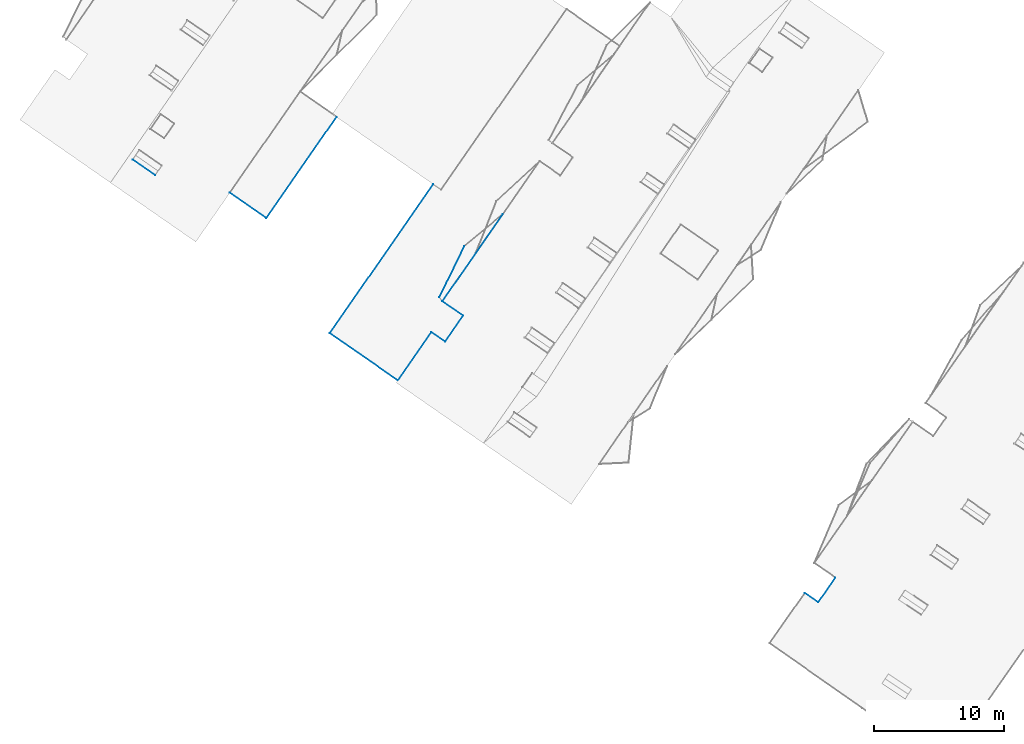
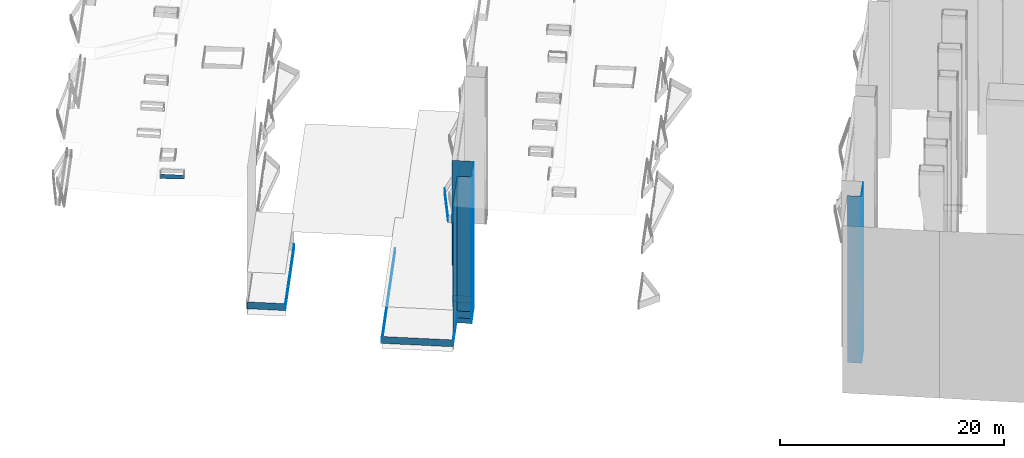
# Not in any storey, part 2 of 136: 27 walls.
"""IFC4 building model written with IfcOpenShell, lengths in metres."""

from ifc_helpers import new_model, entity, si_unit, converted_unit, origin, place, context, subcontext, project, spatial, face_set, surface_model, element, save


model = new_model("IFC4")

# Units and contexts
model_context = context("Model", 3, precision=1e-05, world=origin())
body_context = subcontext(model_context, "Body", "Model", "MODEL_VIEW")
ifc_project = project(units=[converted_unit("PLANEANGLEUNIT", "DEGREE", entity("IfcRatioMeasure", 0.0174532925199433), si_unit("PLANEANGLEUNIT", "RADIAN"), dimensions=[0, 0, 0, 0, 0, 0, 0]), si_unit("AREAUNIT", "SQUARE_METRE"), si_unit("LENGTHUNIT", "METRE")], contexts=[model_context])

# Site, building
site_placement = place(None, origin())
site = spatial("IfcSite", under=ifc_project, at=site_placement, Name="_site")
building_1_placement = place(site_placement, origin())
building_1 = spatial("IfcBuilding", under=site, at=building_1_placement, Name="_building")

# Walls
wall_1_placement = place(building_1_placement, origin())
element("IfcWall", 1, at=wall_1_placement, inside=building_1, Name="Wall", PredefinedType="NOTDEFINED", context=body_context, shape_type="SurfaceModel", body=[
    surface_model("IfcFaceBasedSurfaceModel", [(-0.84, 24.2, 53.93), (0.19, 23.48, 53.93), (0.19, 23.48, 35.766), (-0.84, 24.2, 35.761)], [face_set([[[0, 1, 2, 3]]])]),
])
wall_2_placement = place(building_1_placement, origin())
element("IfcWall", 2, at=wall_2_placement, inside=building_1, Name="Wall", PredefinedType="NOTDEFINED", context=body_context, shape_type="SurfaceModel", body=[
    surface_model("IfcFaceBasedSurfaceModel", [(0.19, 23.48, 53.93), (1.5, 25.37, 53.93), (1.5, 25.37, 35.775), (0.19, 23.48, 35.766)], [face_set([[[0, 1, 2, 3]]])]),
])

# Building
building_2_placement = place(site_placement, origin())
building_2 = spatial("IfcBuilding", under=site, at=building_2_placement, Name="_building")

# Walls
wall_3_placement = place(building_2_placement, origin())
element("IfcWall", 3, at=wall_3_placement, inside=building_2, Name="Wall", PredefinedType="NOTDEFINED", context=body_context, shape_type="SurfaceModel", body=[
    surface_model("IfcFaceBasedSurfaceModel", [(-29.47, 44.19, 38.52), (-32.04, 40.49, 38.52), (-32.04, 40.49, 39.27), (-29.47, 44.19, 39.27)], [face_set([[[0, 1, 2, 3]]])]),
])
wall_4_placement = place(building_2_placement, origin())
element("IfcWall", 4, at=wall_4_placement, inside=building_2, Name="Wall", PredefinedType="NOTDEFINED", context=body_context, shape_type="SurfaceModel", body=[
    surface_model("IfcFaceBasedSurfaceModel", [(-28.41, 43.46, 38.52), (-29.47, 44.19, 38.52), (-29.47, 44.19, 39.27), (-28.41, 43.46, 39.27)], [face_set([[[0, 1, 2, 3]]])]),
])
wall_5_placement = place(building_2_placement, origin())
element("IfcWall", 5, at=wall_5_placement, inside=building_2, Name="Wall", PredefinedType="NOTDEFINED", context=body_context, shape_type="SurfaceModel", body=[
    surface_model("IfcFaceBasedSurfaceModel", [(-27.04, 45.45, 38.52), (-28.41, 43.46, 38.52), (-28.41, 43.46, 39.27), (-27.04, 45.45, 39.27)], [face_set([[[0, 1, 2, 3]]])]),
])
wall_6_placement = place(building_2_placement, origin())
element("IfcWall", 6, at=wall_6_placement, inside=building_2, Name="Wall", PredefinedType="NOTDEFINED", context=body_context, shape_type="SurfaceModel", body=[
    surface_model("IfcFaceBasedSurfaceModel", [(-37.25, 44.11, 38.52), (-29.32, 55.521, 38.52), (-29.32, 55.521, 39.27), (-37.25, 44.11, 39.27)], [face_set([[[0, 1, 2, 3]]])]),
])
wall_7_placement = place(building_2_placement, origin())
element("IfcWall", 7, at=wall_7_placement, inside=building_2, Name="Wall", PredefinedType="NOTDEFINED", context=body_context, shape_type="SurfaceModel", body=[
    surface_model("IfcFaceBasedSurfaceModel", [(-27.04, 45.45, 53.94), (-28.62, 46.55, 53.94), (-28.62, 46.55, 37.98), (-27.04, 45.45, 37.98)], [face_set([[[0, 1, 2, 3]]])]),
])
wall_8_placement = place(building_2_placement, origin())
element("IfcWall", 8, at=wall_8_placement, inside=building_2, Name="Wall", PredefinedType="NOTDEFINED", context=body_context, shape_type="SurfaceModel", body=[
    surface_model("IfcFaceBasedSurfaceModel", [(-28.41, 43.46, 53.94), (-27.04, 45.45, 53.94), (-27.04, 45.45, 37.98), (-28.41, 43.46, 37.98)], [face_set([[[0, 1, 2, 3]]])]),
])
wall_9_placement = place(building_2_placement, origin())
element("IfcWall", 9, at=wall_9_placement, inside=building_2, Name="Wall", PredefinedType="NOTDEFINED", context=body_context, shape_type="SurfaceModel", body=[
    surface_model("IfcFaceBasedSurfaceModel", [(-29.47, 44.19, 53.94), (-28.41, 43.46, 53.94), (-28.41, 43.46, 37.98), (-29.47, 44.19, 37.98)], [face_set([[[0, 1, 2, 3]]])]),
])
wall_10_placement = place(building_2_placement, origin())
element("IfcWall", 10, at=wall_10_placement, inside=building_2, Name="Wall", PredefinedType="NOTDEFINED", context=body_context, shape_type="SurfaceModel", body=[
    surface_model("IfcFaceBasedSurfaceModel", [(-32.04, 40.49, 53.94), (-29.47, 44.19, 53.94), (-29.47, 44.19, 37.98), (-32.04, 40.49, 37.98)], [face_set([[[0, 1, 2, 3]]])]),
])
wall_11_placement = place(building_2_placement, origin())
element("IfcWall", 11, at=wall_11_placement, inside=building_2, Name="Wall", PredefinedType="NOTDEFINED", context=body_context, shape_type="SurfaceModel", body=[
    surface_model("IfcFaceBasedSurfaceModel", [(-29.47, 44.19, 38.52), (-32.04, 40.49, 38.52), (-32.04, 40.49, 39.27), (-29.47, 44.19, 39.27)], [face_set([[[0, 1, 2, 3]]])]),
])
wall_12_placement = place(building_2_placement, origin())
element("IfcWall", 12, at=wall_12_placement, inside=building_2, Name="Wall", PredefinedType="NOTDEFINED", context=body_context, shape_type="SurfaceModel", body=[
    surface_model("IfcFaceBasedSurfaceModel", [(-28.62, 46.55, 38.52), (-27.04, 45.45, 38.52), (-27.04, 45.45, 39.27), (-28.62, 46.55, 39.27)], [face_set([[[0, 1, 2, 3]]])]),
])
wall_13_placement = place(building_2_placement, origin())
element("IfcWall", 13, at=wall_13_placement, inside=building_2, Name="Wall", PredefinedType="NOTDEFINED", context=body_context, shape_type="SurfaceModel", body=[
    surface_model("IfcFaceBasedSurfaceModel", [(-32.04, 40.49, 38.52), (-37.25, 44.11, 38.52), (-37.25, 44.11, 39.27), (-32.04, 40.49, 39.27)], [face_set([[[0, 1, 2, 3]]])]),
])
wall_14_placement = place(building_2_placement, origin())
element("IfcWall", 14, at=wall_14_placement, inside=building_2, Name="Wall", PredefinedType="NOTDEFINED", context=body_context, shape_type="SurfaceModel", body=[
    surface_model("IfcFaceBasedSurfaceModel", [(-37.25, 44.11, 38.52), (-29.32, 55.521, 38.52), (-29.32, 55.521, 39.27), (-37.25, 44.11, 39.27)], [face_set([[[0, 1, 2, 3]]])]),
])
wall_15_placement = place(building_2_placement, origin())
element("IfcWall", 15, at=wall_15_placement, inside=building_2, Name="Wall", PredefinedType="NOTDEFINED", context=body_context, shape_type="SurfaceModel", body=[
    surface_model("IfcFaceBasedSurfaceModel", [(-28.41, 43.46, 38.52), (-29.47, 44.19, 38.52), (-29.47, 44.19, 39.27), (-28.41, 43.46, 39.27)], [face_set([[[0, 1, 2, 3]]])]),
])
wall_16_placement = place(building_2_placement, origin())
element("IfcWall", 16, at=wall_16_placement, inside=building_2, Name="Wall", PredefinedType="NOTDEFINED", context=body_context, shape_type="SurfaceModel", body=[
    surface_model("IfcFaceBasedSurfaceModel", [(-32.04, 40.49, 38.52), (-37.25, 44.11, 38.52), (-37.25, 44.11, 39.27), (-32.04, 40.49, 39.27)], [face_set([[[0, 1, 2, 3]]])]),
])
wall_17_placement = place(building_2_placement, origin())
element("IfcWall", 17, at=wall_17_placement, inside=building_2, Name="Wall", PredefinedType="NOTDEFINED", context=body_context, shape_type="SurfaceModel", body=[
    surface_model("IfcFaceBasedSurfaceModel", [(-27.04, 45.45, 38.52), (-28.41, 43.46, 38.52), (-28.41, 43.46, 39.27), (-27.04, 45.45, 39.27)], [face_set([[[0, 1, 2, 3]]])]),
])
wall_18_placement = place(building_2_placement, origin())
element("IfcWall", 18, at=wall_18_placement, inside=building_2, Name="Wall", PredefinedType="NOTDEFINED", context=body_context, shape_type="SurfaceModel", body=[
    surface_model("IfcFaceBasedSurfaceModel", [(-28.62, 46.55, 38.52), (-27.04, 45.45, 38.52), (-27.04, 45.45, 39.27), (-28.62, 46.55, 39.27)], [face_set([[[0, 1, 2, 3]]])]),
])
wall_19_placement = place(building_2_placement, origin())
element("IfcWall", 19, at=wall_19_placement, inside=building_2, Name="Wall", PredefinedType="NOTDEFINED", context=body_context, shape_type="SurfaceModel", body=[
    surface_model("IfcFaceBasedSurfaceModel", [(-28.85, 46.86, 47.1), (-26.94, 50.78, 47.1), (-26.94, 50.78, 47.85), (-28.85, 46.86, 47.85)], [face_set([[[0, 1, 2, 3]]])]),
])
wall_20_placement = place(building_2_placement, origin())
element("IfcWall", 20, at=wall_20_placement, inside=building_2, Name="Wall", PredefinedType="NOTDEFINED", context=body_context, shape_type="SurfaceModel", body=[
    surface_model("IfcFaceBasedSurfaceModel", [(-23.99, 53.23, 47.1), (-28.62, 46.55, 47.1), (-28.62, 46.55, 47.85), (-23.99, 53.23, 47.85)], [face_set([[[0, 1, 2, 3]]])]),
])
wall_21_placement = place(building_2_placement, origin())
element("IfcWall", 21, at=wall_21_placement, inside=building_2, Name="Wall", PredefinedType="NOTDEFINED", context=body_context, shape_type="SurfaceModel", body=[
    surface_model("IfcFaceBasedSurfaceModel", [(-28.85, 46.86, 47.1), (-26.94, 50.78, 47.1), (-26.94, 50.78, 47.85), (-28.85, 46.86, 47.85)], [face_set([[[0, 1, 2, 3]]])]),
])
wall_22_placement = place(building_2_placement, origin())
element("IfcWall", 22, at=wall_22_placement, inside=building_2, Name="Wall", PredefinedType="NOTDEFINED", context=body_context, shape_type="SurfaceModel", body=[
    surface_model("IfcFaceBasedSurfaceModel", [(-23.99, 53.23, 47.1), (-28.62, 46.55, 47.1), (-28.62, 46.55, 47.85), (-23.99, 53.23, 47.85)], [face_set([[[0, 1, 2, 3]]])]),
])

# Building
building_3_placement = place(site_placement, origin())
building_3 = spatial("IfcBuilding", under=site, at=building_3_placement, Name="_building")

# Walls
wall_23_placement = place(building_3_placement, origin())
element("IfcWall", 23, at=wall_23_placement, inside=building_3, Name="Wall", PredefinedType="NOTDEFINED", context=body_context, shape_type="SurfaceModel", body=[
    surface_model("IfcFaceBasedSurfaceModel", [(-42.12, 52.94, 38.44), (-44.91, 54.88, 38.44), (-44.91, 54.88, 39.19), (-42.12, 52.94, 39.19)], [face_set([[[0, 1, 2, 3]]])]),
])
wall_24_placement = place(building_3_placement, origin())
element("IfcWall", 24, at=wall_24_placement, inside=building_3, Name="Wall", PredefinedType="NOTDEFINED", context=body_context, shape_type="SurfaceModel", body=[
    surface_model("IfcFaceBasedSurfaceModel", [(-50.65, 56.22, 54.18), (-52.37, 57.41, 54.18), (-52.37, 57.41, 53.675), (-50.65, 56.22, 53.771)], [face_set([[[0, 1, 2, 3]]])]),
])
wall_25_placement = place(building_3_placement, origin())
element("IfcWall", 25, at=wall_25_placement, inside=building_3, Name="Wall", PredefinedType="NOTDEFINED", context=body_context, shape_type="SurfaceModel", body=[
    surface_model("IfcFaceBasedSurfaceModel", [(-36.74, 60.68, 38.44), (-42.12, 52.94, 38.44), (-42.12, 52.94, 39.19), (-36.74, 60.68, 39.19)], [face_set([[[0, 1, 2, 3]]])]),
])
wall_26_placement = place(building_3_placement, origin())
element("IfcWall", 26, at=wall_26_placement, inside=building_3, Name="Wall", PredefinedType="NOTDEFINED", context=body_context, shape_type="SurfaceModel", body=[
    surface_model("IfcFaceBasedSurfaceModel", [(-42.12, 52.94, 38.44), (-44.91, 54.88, 38.44), (-44.91, 54.88, 39.19), (-42.12, 52.94, 39.19)], [face_set([[[0, 1, 2, 3]]])]),
])
wall_27_placement = place(building_3_placement, origin())
element("IfcWall", 27, at=wall_27_placement, inside=building_3, Name="Wall", PredefinedType="NOTDEFINED", context=body_context, shape_type="SurfaceModel", body=[
    surface_model("IfcFaceBasedSurfaceModel", [(-36.74, 60.68, 38.44), (-42.12, 52.94, 38.44), (-42.12, 52.94, 39.19), (-36.74, 60.68, 39.19)], [face_set([[[0, 1, 2, 3]]])]),
])

save(model, "model.ifc")
